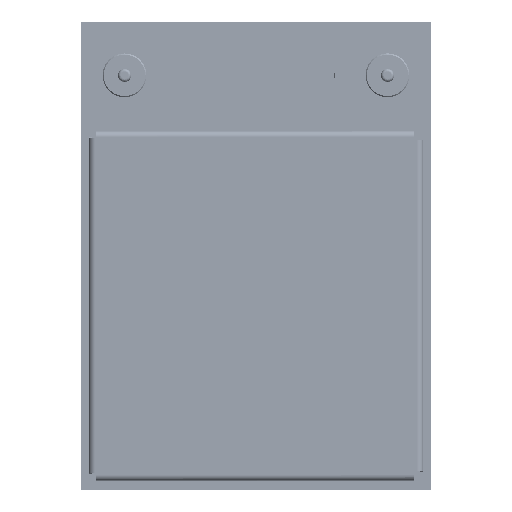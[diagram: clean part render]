
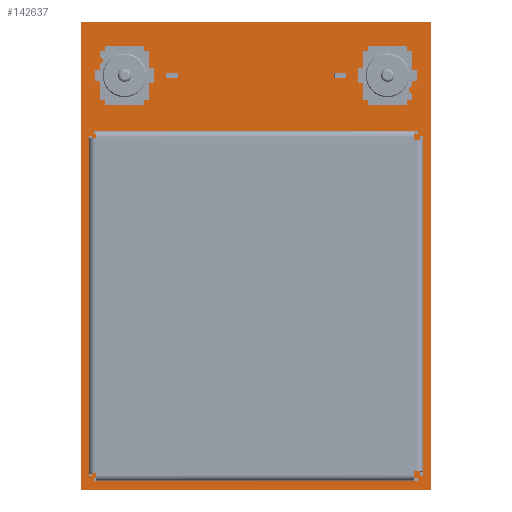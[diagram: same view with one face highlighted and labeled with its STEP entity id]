
A CAD part, top view. The second image highlights one B-rep face of the part: STEP entity #142637.
In plain terms, the highlighted planar face has unit normal (0, 0, 1).
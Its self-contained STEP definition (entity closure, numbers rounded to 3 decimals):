
#9342 = EDGE_CURVE ( 'NONE', #440864, #202832, #44966, .T. ) ;
#16255 = ORIENTED_EDGE ( 'NONE', *, *, #9342, .F. ) ;
#27004 = LINE ( 'NONE', #426656, #93576 ) ;
#44966 = LINE ( 'NONE', #164036, #116858 ) ;
#90923 = DIRECTION ( 'NONE',  ( 0., -1., 0. ) ) ;
#93576 = VECTOR ( 'NONE', #500681, 1000. ) ;
#109502 = LINE ( 'NONE', #310572, #515237 ) ;
#116858 = VECTOR ( 'NONE', #325507, 1000. ) ;
#119145 = CARTESIAN_POINT ( 'NONE',  ( -6., 8., 0. ) ) ;
#133633 = ORIENTED_EDGE ( 'NONE', *, *, #196143, .F. ) ;
#142637 = ADVANCED_FACE ( 'NONE', ( #289416 ), #170170, .F. ) ;
#164036 = CARTESIAN_POINT ( 'NONE',  ( 6., 8., 0. ) ) ;
#164516 = DIRECTION ( 'NONE',  ( -1., 0., 0. ) ) ;
#170170 = PLANE ( 'NONE',  #227274 ) ;
#184107 = EDGE_LOOP ( 'NONE', ( #391554, #16255, #133633, #506312 ) ) ;
#196143 = EDGE_CURVE ( 'NONE', #492925, #440864, #27004, .T. ) ;
#202832 = VERTEX_POINT ( 'NONE', #452130 ) ;
#209046 = CARTESIAN_POINT ( 'NONE',  ( -6., -8., 0. ) ) ;
#214570 = EDGE_CURVE ( 'NONE', #202832, #328667, #254328, .T. ) ;
#227274 = AXIS2_PLACEMENT_3D ( 'NONE', #294595, #329069, #90923 ) ;
#238844 = CARTESIAN_POINT ( 'NONE',  ( 6., 8., 0. ) ) ;
#254328 = LINE ( 'NONE', #450209, #437023 ) ;
#274488 = EDGE_CURVE ( 'NONE', #328667, #492925, #109502, .T. ) ;
#289416 = FACE_OUTER_BOUND ( 'NONE', #184107, .T. ) ;
#294595 = CARTESIAN_POINT ( 'NONE',  ( 0., 0., 0. ) ) ;
#310572 = CARTESIAN_POINT ( 'NONE',  ( -6., -8., 0. ) ) ;
#325507 = DIRECTION ( 'NONE',  ( 0., -1., 0. ) ) ;
#328667 = VERTEX_POINT ( 'NONE', #209046 ) ;
#329069 = DIRECTION ( 'NONE',  ( 0., 0., -1. ) ) ;
#360714 = DIRECTION ( 'NONE',  ( 0., 1., 0. ) ) ;
#391554 = ORIENTED_EDGE ( 'NONE', *, *, #214570, .F. ) ;
#426656 = CARTESIAN_POINT ( 'NONE',  ( -6., 8., 0. ) ) ;
#437023 = VECTOR ( 'NONE', #164516, 1000. ) ;
#440864 = VERTEX_POINT ( 'NONE', #238844 ) ;
#450209 = CARTESIAN_POINT ( 'NONE',  ( 6., -8., 0. ) ) ;
#452130 = CARTESIAN_POINT ( 'NONE',  ( 6., -8., 0. ) ) ;
#492925 = VERTEX_POINT ( 'NONE', #119145 ) ;
#500681 = DIRECTION ( 'NONE',  ( 1., 0., 0. ) ) ;
#506312 = ORIENTED_EDGE ( 'NONE', *, *, #274488, .F. ) ;
#515237 = VECTOR ( 'NONE', #360714, 1000. ) ;
